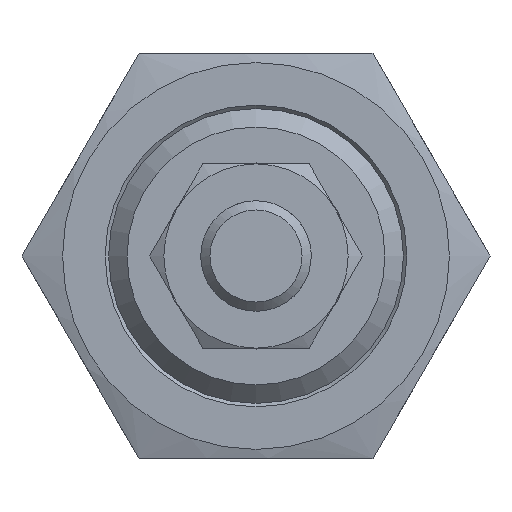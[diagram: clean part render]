
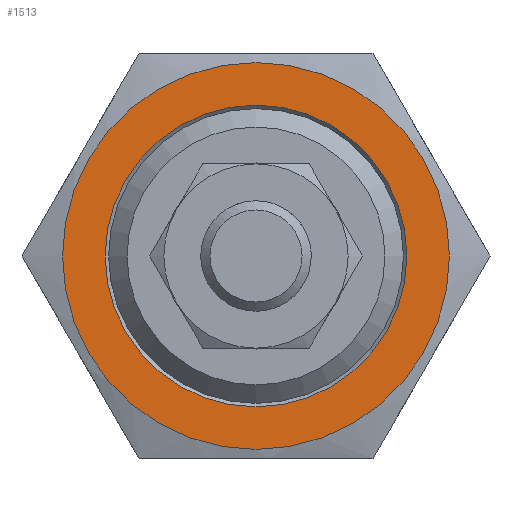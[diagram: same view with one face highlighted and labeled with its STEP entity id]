
A CAD part, front view. The second image highlights one B-rep face of the part: STEP entity #1513.
In plain terms, the highlighted planar face has unit normal (0, -1, 0) as drawn and (0, 0, 1) by its records, which use the part's own axes.
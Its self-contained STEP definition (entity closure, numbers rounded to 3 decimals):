
#237=PLANE('',#2561);
#538=ORIENTED_EDGE('',*,*,#728,.T.);
#539=ORIENTED_EDGE('',*,*,#729,.T.);
#728=EDGE_CURVE('',#866,#866,#972,.F.);
#729=EDGE_CURVE('',#867,#867,#973,.T.);
#866=VERTEX_POINT('',#3524);
#867=VERTEX_POINT('',#3526);
#972=CIRCLE('',#2562,8.188);
#973=CIRCLE('',#2563,10.5);
#1160=EDGE_LOOP('',(#538));
#1161=EDGE_LOOP('',(#539));
#1360=FACE_BOUND('',#1160,.T.);
#1361=FACE_BOUND('',#1161,.T.);
#1513=ADVANCED_FACE('',(#1360,#1361),#237,.T.);
#2561=AXIS2_PLACEMENT_3D('',#3522,#3025,#3026);
#2562=AXIS2_PLACEMENT_3D('',#3523,#3027,#3028);
#2563=AXIS2_PLACEMENT_3D('',#3525,#3029,#3030);
#3025=DIRECTION('',(0.,0.,1.));
#3026=DIRECTION('',(1.,0.,0.));
#3027=DIRECTION('',(0.,0.,1.));
#3028=DIRECTION('',(1.,0.,0.));
#3029=DIRECTION('',(0.,0.,1.));
#3030=DIRECTION('',(1.,0.,0.));
#3522=CARTESIAN_POINT('',(0.,0.,3.));
#3523=CARTESIAN_POINT('',(0.,0.,3.));
#3524=CARTESIAN_POINT('',(8.188,0.,3.));
#3525=CARTESIAN_POINT('',(0.,0.,3.));
#3526=CARTESIAN_POINT('',(10.5,0.,3.));
